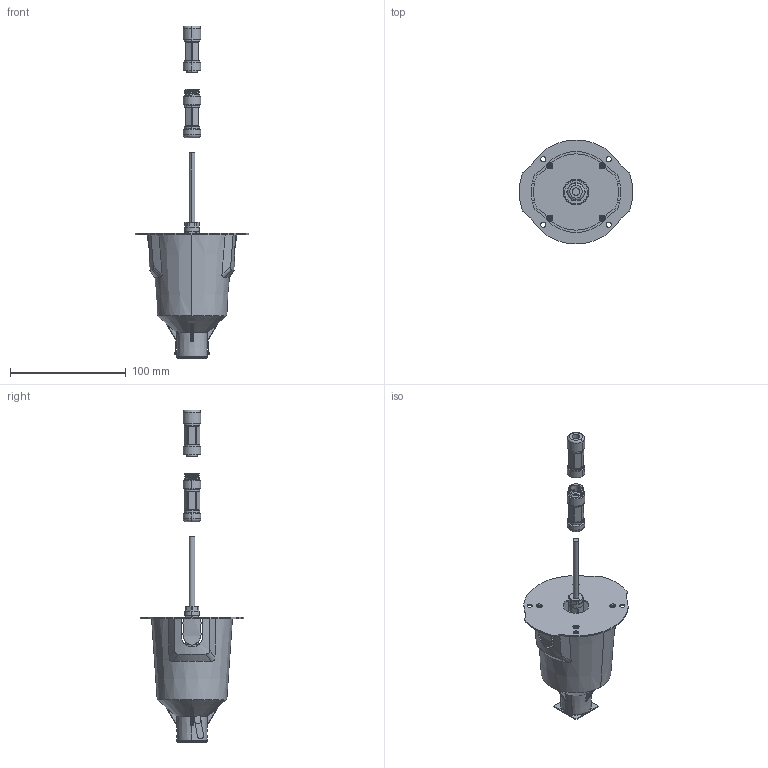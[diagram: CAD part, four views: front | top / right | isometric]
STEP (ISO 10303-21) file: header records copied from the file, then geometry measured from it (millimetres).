
FILE_DESCRIPTION((''),'2;1');
FILE_NAME('2BN-2020-9-1_ASM','2025-05-06T',('Administrator'),(''),'CREO PARAMETRIC BY PTC INC, 2015200','CREO PARAMETRIC BY PTC INC, 2015200','');
FILE_SCHEMA(('CONFIG_CONTROL_DESIGN'));
Length unit declared in the file: millimetre
Products named in the file (21): 2BP-A; PRT0007; 2BN_DT_JIA_GAO_BAN_D20_20_2; PG7_CU_23_2; 2BN_TOU_JING_YA_QUAN_8_2; 2M_LJB_15_2; 2M_KH_NO4_11_2; 2M_FSQ_D19_3_2; 2YC_LJB_3_2; 2BN_DT_ZJ_B15_ASM_27_ASM_2_ASM; B15_TOU_JING_10_2; 2BN_MG_ZJ_B15_ASM_15_ASM_2_ASM; 2BN0157_B15_ASM_55_ASM_2_ASM; 2019-5-15KAHUANG_2; 2BMR_MG_D27_2_2; 2BN_2BM_ALL_ASM_5_ASM_2_ASM; 2BMS_MG_D27_16; 2M_PC_D19_9_2; 2BP-06_ASM; SENYMI; 2BN-2020-9-1_ASM
Assembly tree (20 placements, depth 6):
  2BN-2020-9-1_ASM
    2BP-A
    PRT0007
    2BP-06_ASM
      2BN_2BM_ALL_ASM_5_ASM_2_ASM
        2BN0157_B15_ASM_55_ASM_2_ASM
          2BN_DT_ZJ_B15_ASM_27_ASM_2_ASM
            2BN_DT_JIA_GAO_BAN_D20_20_2
            PG7_CU_23_2
            2BN_TOU_JING_YA_QUAN_8_2
            2M_LJB_15_2
            2M_KH_NO4_11_2
            2M_FSQ_D19_3_2
            2YC_LJB_3_2
          B15_TOU_JING_10_2
          2BN_MG_ZJ_B15_ASM_15_ASM_2_ASM
        2019-5-15KAHUANG_2
        2BMR_MG_D27_2_2
      2BMS_MG_D27_16
      2M_PC_D19_9_2
    SENYMI
Bounding box: 98.1 x 89.76 x 286.65 mm (x, y, z)
Volume: 79471.3 mm3; surface area: 78111.1 mm2
Topology: 17 solids, 17 shells, 1080 faces, 2810 edges, 1845 vertices
Faces by surface type: plane 493, cylinder 305, bspline 130, cone 82, extrusion 38, torus 20, sphere 10, revolution 2
Entity records: 184369 total; most frequent: CARTESIAN_POINT 158957, ORIENTED_EDGE 5616, DIRECTION 4586, EDGE_CURVE 2808, VERTEX_POINT 1845, AXIS2_PLACEMENT_3D 1765, EDGE_LOOP 1215, FACE_OUTER_BOUND 1080
